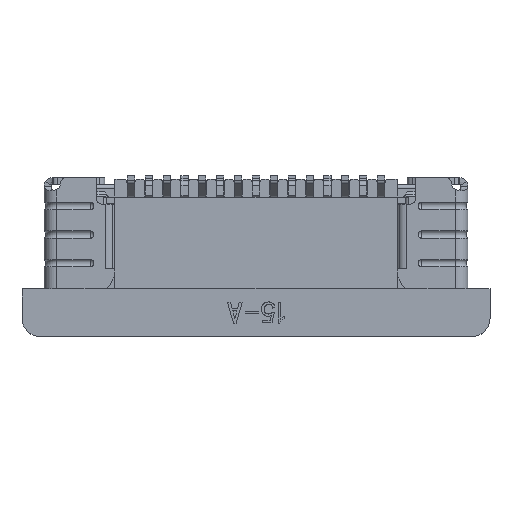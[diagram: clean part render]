
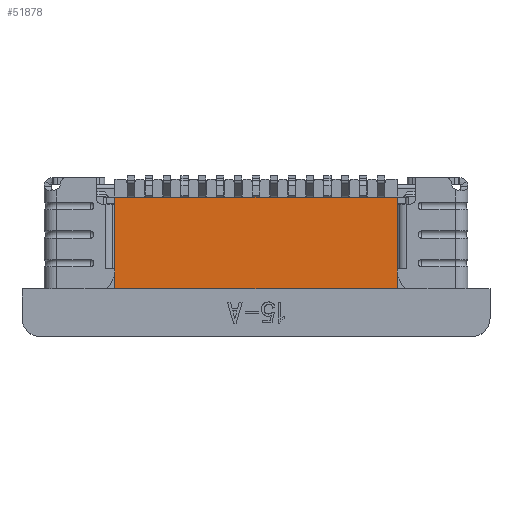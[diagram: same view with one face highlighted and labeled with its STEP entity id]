
A CAD part, top view. The second image highlights one B-rep face of the part: STEP entity #51878.
In plain terms, the highlighted planar face has unit normal (0, 0, 1).
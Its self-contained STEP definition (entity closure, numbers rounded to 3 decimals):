
#43002=DIRECTION('',(1.,0.,0.));
#43003=VECTOR('',#43002,7.9);
#43004=CARTESIAN_POINT('',(-5.2,-3.07,1.));
#43005=LINE('',#43004,#43003);
#43006=DIRECTION('',(0.,-1.,0.));
#43007=VECTOR('',#43006,2.57);
#43008=CARTESIAN_POINT('',(-5.2,-0.5,1.));
#43009=LINE('',#43008,#43007);
#43010=DIRECTION('',(-1.,0.,0.));
#43011=VECTOR('',#43010,7.9);
#43012=CARTESIAN_POINT('',(2.7,-0.5,1.));
#43013=LINE('',#43012,#43011);
#43014=DIRECTION('',(0.,1.,0.));
#43015=VECTOR('',#43014,2.57);
#43016=CARTESIAN_POINT('',(2.7,-3.07,1.));
#43017=LINE('',#43016,#43015);
#49511=CARTESIAN_POINT('',(-5.2,-3.07,1.));
#49512=VERTEX_POINT('',#49511);
#49513=CARTESIAN_POINT('',(-5.2,-0.5,1.));
#49514=VERTEX_POINT('',#49513);
#49811=CARTESIAN_POINT('',(2.7,-3.07,1.));
#49812=VERTEX_POINT('',#49811);
#49813=CARTESIAN_POINT('',(2.7,-0.5,1.));
#49814=VERTEX_POINT('',#49813);
#51865=CARTESIAN_POINT('',(-8.46,-0.1,1.));
#51866=DIRECTION('',(0.,0.,-1.));
#51867=DIRECTION('',(-1.,0.,0.));
#51868=AXIS2_PLACEMENT_3D('',#51865,#51866,#51867);
#51869=PLANE('',#51868);
#51870=ORIENTED_EDGE('',*,*,#51522,.F.);
#51872=ORIENTED_EDGE('',*,*,#51871,.F.);
#51873=ORIENTED_EDGE('',*,*,#51735,.F.);
#51875=ORIENTED_EDGE('',*,*,#51874,.F.);
#51876=EDGE_LOOP('',(#51870,#51872,#51873,#51875));
#51877=FACE_OUTER_BOUND('',#51876,.F.);
#51878=ADVANCED_FACE('',(#51877),#51869,.F.);
#51522=EDGE_CURVE('',#49512,#49812,#43005,.T.);
#51735=EDGE_CURVE('',#49814,#49514,#43013,.T.);
#51871=EDGE_CURVE('',#49514,#49512,#43009,.T.);
#51874=EDGE_CURVE('',#49812,#49814,#43017,.T.);
